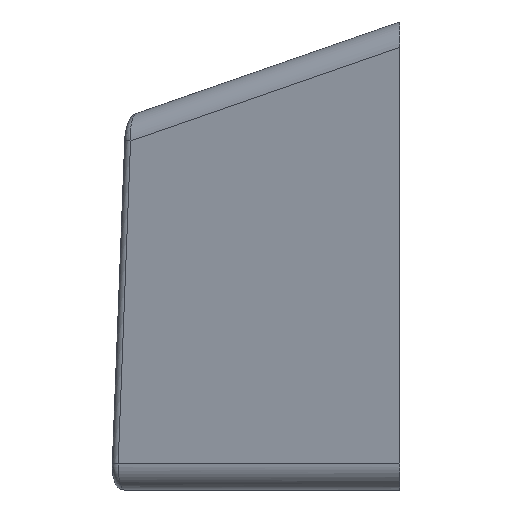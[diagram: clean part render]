
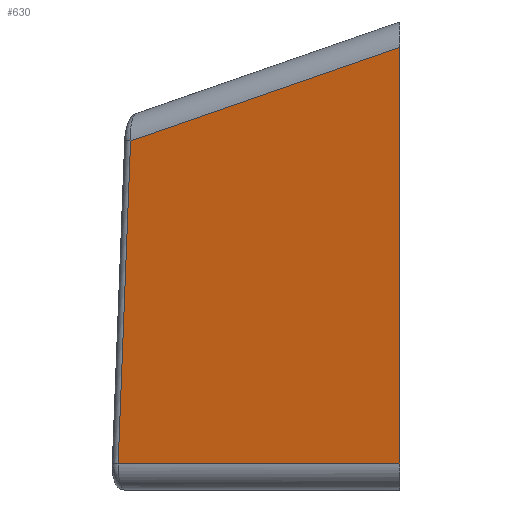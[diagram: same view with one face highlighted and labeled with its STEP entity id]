
A CAD part, left-side view. The second image highlights one B-rep face of the part: STEP entity #630.
In plain terms, the highlighted planar face has unit normal (-0.972, 0.237, 0).
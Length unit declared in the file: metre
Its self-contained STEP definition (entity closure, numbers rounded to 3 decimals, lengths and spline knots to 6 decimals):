
#35=B_SPLINE_CURVE_WITH_KNOTS('',3,(#1113,#1114,#1115,#1116),
 .UNSPECIFIED.,.F.,.F.,(4,4),(-1.731337,-0.488219),
 .UNSPECIFIED.);
#204=ORIENTED_EDGE('',*,*,#319,.F.);
#205=ORIENTED_EDGE('',*,*,#314,.F.);
#206=ORIENTED_EDGE('',*,*,#323,.F.);
#207=ORIENTED_EDGE('',*,*,#320,.F.);
#314=EDGE_CURVE('',#384,#385,#440,.F.);
#319=EDGE_CURVE('',#385,#386,#441,.F.);
#320=EDGE_CURVE('',#386,#388,#35,.F.);
#323=EDGE_CURVE('',#388,#384,#442,.T.);
#384=VERTEX_POINT('',#1089);
#385=VERTEX_POINT('',#1091);
#386=VERTEX_POINT('',#1099);
#388=VERTEX_POINT('',#1117);
#440=LINE('',#1090,#490);
#441=LINE('',#1111,#491);
#442=LINE('',#1128,#492);
#490=VECTOR('',#810,1.);
#491=VECTOR('',#817,1.);
#492=VECTOR('',#822,1.);
#528=EDGE_LOOP('',(#204,#205,#206,#207));
#570=FACE_BOUND('',#528,.T.);
#599=PLANE('',#690);
#630=ADVANCED_FACE('',(#570),#599,.T.);
#690=AXIS2_PLACEMENT_3D('',#1127,#820,#821);
#810=DIRECTION('',(0.,0.,1.));
#817=DIRECTION('',(-0.237,-0.972,0.));
#820=DIRECTION('',(-0.972,0.237,0.));
#821=DIRECTION('',(0.,0.,1.));
#822=DIRECTION('',(-0.224,-0.92,0.32));
#1089=CARTESIAN_POINT('',(-0.009,0.,0.008024));
#1090=CARTESIAN_POINT('',(-0.009,0.,0.));
#1091=CARTESIAN_POINT('',(-0.009,0.,-0.008));
#1099=CARTESIAN_POINT('',(-0.006363,0.010832,-0.008));
#1111=CARTESIAN_POINT('',(-0.0062,0.0115,-0.008));
#1113=CARTESIAN_POINT('',(-0.006479,0.010356,0.004422));
#1114=CARTESIAN_POINT('',(-0.00644,0.010513,0.000281));
#1115=CARTESIAN_POINT('',(-0.006402,0.010672,-0.00386));
#1116=CARTESIAN_POINT('',(-0.006363,0.010832,-0.008));
#1117=CARTESIAN_POINT('',(-0.006479,0.010356,0.004422));
#1127=CARTESIAN_POINT('',(-0.0062,0.0115,0.005));
#1128=CARTESIAN_POINT('',(-0.005959,0.012491,0.003679));
